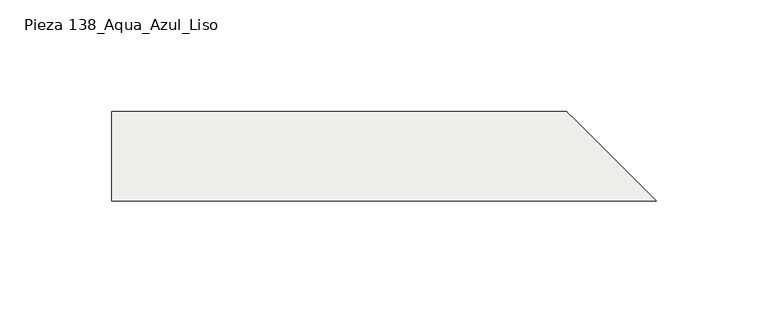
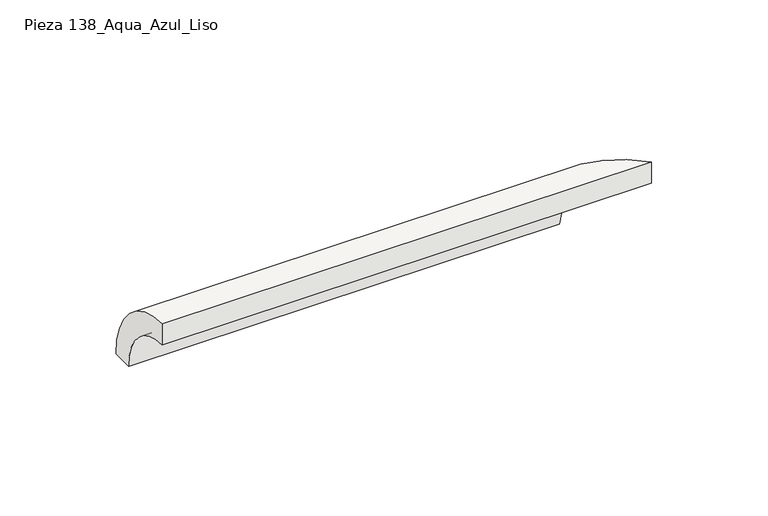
"""IFC4 building model written with IfcOpenShell, lengths in millimetres: slab geometry, ROSA GRES_138 (corte) : Pieza 138_Aqua_Azul_Liso."""

from ifc_helpers import new_model, si_unit, frame, origin, place, context, project, spatial, polyline, circle_curve, ellipse_curve, source, transform, mapped, element, save
from ifc_brep_helpers import plane_surface, cylinder_surface, revolved_surface, advanced_brep


def pieza_138_aqua_azul_liso_93942e5e(model_context):
    return source(origin(), model_context, "Body", "AdvancedBrep", [
        advanced_brep(
        [(0.0, 0.0, 29.0), (0.0, 0.0, 40.0), (0.0, 40.0, 0.0), (0.0, 29.0, 0.0), (243.5, 0.0, 29.0), (243.5, 0.0, 40.0), (203.5, 40.0, 0.0), (214.5, 29.0, 0.0)],
        [
            (0, 1),
            (1, 2, circle_curve(frame((0.0, 0.0, 0.0), z_axis=(-1.0, 0.0, 0.0), x_axis=(0.0, 1.0, 0.0)), 40.0)),
            (2, 3),
            (3, 0, circle_curve(frame((0.0, 0.0, 0.0), z_axis=(1.0, 0.0, 0.0), x_axis=(0.0, 1.0, 0.0)), 29.0)),
            (0, 4),
            (4, 5),
            (5, 1),
            (2, 6),
            (6, 7),
            (7, 3),
            (5, 6, ellipse_curve(frame((243.5, 0.0, 0.0), z_axis=(-0.7071067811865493, -0.7071067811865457, 0.0), x_axis=(-0.7071067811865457, 0.7071067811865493, 0.0)), 56.5685425, 40.0)),
            (7, 4, ellipse_curve(frame((243.5, 0.0, 0.0), z_axis=(0.7071067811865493, 0.7071067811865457, 0.0), x_axis=(0.7071067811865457, -0.7071067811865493, 0.0)), 41.0121933, 29.0)),
        ],
        [
            plane_surface(frame((0.0, 0.0, 0.0), z_axis=(-1.0, 0.0, 0.0), x_axis=(0.0, 0.0, 1.0))),
            plane_surface(frame((0.0, 0.0, 29.0), z_axis=(0.0, -1.0, 0.0), x_axis=(1.0, 0.0, 0.0))),
            plane_surface(frame((0.0, 40.0, 0.0), z_axis=(0.0, 0.0, -1.0), x_axis=(1.0, 0.0, 0.0))),
            cylinder_surface(frame((0.0, 0.0, 0.0), z_axis=(-1.0, 0.0, 0.0), x_axis=(0.0, 1.0, 0.0)), 40.0),
            revolved_surface(polyline([(272.4999999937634, 29.0, 0.0), (0.0, 29.0, 0.0)]), (0.0, 0.0, 0.0), (1.0, 0.0, 0.0)),
            plane_surface(frame((203.0, 40.5, 104.9871832), z_axis=(0.7071067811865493, 0.7071067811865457, 0.0), x_axis=(0.0, 0.0, -1.0))),
        ],
        [
            (0, [[1, 2, 3, 4]]),
            (1, [[-1, 5, 6, 7]]),
            (2, [[-3, 8, 9, 10]]),
            (3, [[-2, -7, 11, -8]]),
            (4, [[-4, -10, 12, -5]]),
            (5, [[-6, -12, -9, -11]]),
        ],
    ),
    ])


if __name__ == "__main__":
    model = new_model("IFC4")
    model_context = context("Model", 3, world=origin())
    ifc_project = project(units=[si_unit("LENGTHUNIT", "METRE", prefix="MILLI")], contexts=[model_context])
    site = spatial("IfcSite", under=ifc_project)
    building = spatial("IfcBuilding", under=site)
    placement = place(None, origin())
    pieza_138_aqua_azul_liso_shape = pieza_138_aqua_azul_liso_93942e5e(model_context)
    element("IfcSlab", 1, ObjectType="ROSA GRES_138 (corte) : Pieza 138_Aqua_Azul_Liso", at=placement, inside=building, context=model_context, shape_type="MappedRepresentation", body=[
        mapped(pieza_138_aqua_azul_liso_shape, transform((0.0, 0.0, 0.0), x_axis=(1.0, 0.0, 0.0), y_axis=(0.0, 1.0, 0.0), z_axis=(0.0, 0.0, 1.0))),
    ])
    save(model, "model.ifc")
